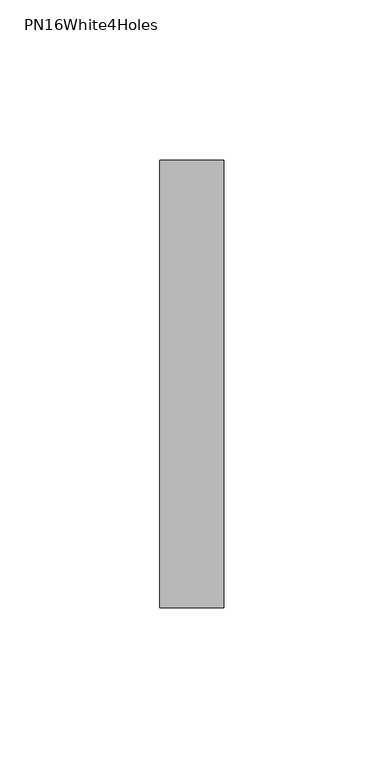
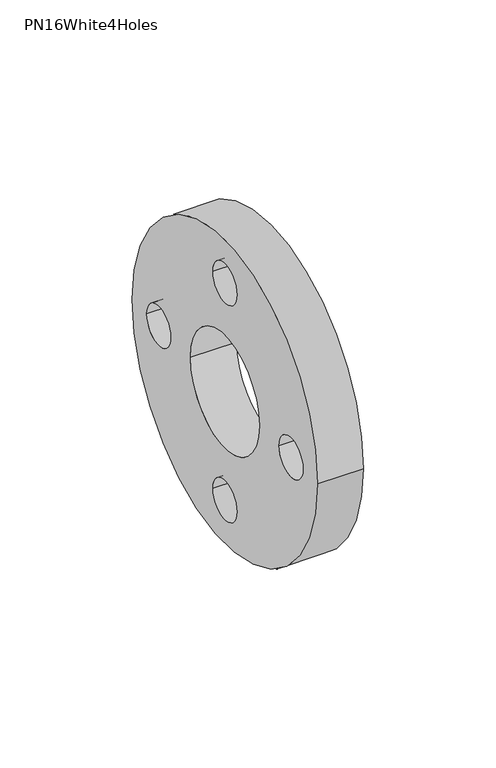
"""IFC4 building model written with IfcOpenShell, lengths in millimetres: pipe fitting geometry, PipeAccessory_GirpiHTA_CPVC_BackingRingsPN16White4HolesFlangeAndGasket : PN16White4Holes."""

from ifc_helpers import new_model, si_unit, point, frame, frame_2d, origin, origin_2d, place, context, project, spatial, circle_curve, trimmed, segment, composite_curve, outline, extrude, source, transform, mapped, element, save


def pn16white4holes_9e65e146(model_context):
    return source(origin(), model_context, "Body", "SweptSolid", [
        extrude(outline(composite_curve([segment(trimmed(circle_curve(origin_2d(), 70.0), [point((-70.0, 0.0))], [point((70.0, 0.0))], False, "CARTESIAN"), True, "CONTINUOUS"), segment(trimmed(circle_curve(origin_2d(), 70.0), [point((70.0, 0.0))], [point((-70.0, 0.0))], False, "CARTESIAN"), True, "CONTINUOUS")], self_intersect=False), holes=[composite_curve([segment(trimmed(circle_curve(origin_2d(), 26.0), [point((-26.0, 0.0))], [point((26.0, 0.0))], True, "CARTESIAN"), True, "CONTINUOUS"), segment(trimmed(circle_curve(origin_2d(), 26.0), [point((26.0, 0.0))], [point((-26.0, 0.0))], True, "CARTESIAN"), True, "CONTINUOUS")], self_intersect=False), composite_curve([segment(trimmed(circle_curve(frame_2d((0.0, 50.0)), 9.0), [point((-9.0, 50.0))], [point((9.0, 50.0))], True, "CARTESIAN"), True, "CONTINUOUS"), segment(trimmed(circle_curve(frame_2d((0.0, 50.0)), 9.0), [point((9.0, 50.0))], [point((-9.0, 50.0))], True, "CARTESIAN"), True, "CONTINUOUS")], self_intersect=False), composite_curve([segment(trimmed(circle_curve(frame_2d((50.0, 0.0)), 9.0), [point((41.0, 0.0))], [point((59.0, 0.0))], True, "CARTESIAN"), True, "CONTINUOUS"), segment(trimmed(circle_curve(frame_2d((50.0, 0.0)), 9.0), [point((59.0, 0.0))], [point((41.0, 0.0))], True, "CARTESIAN"), True, "CONTINUOUS")], self_intersect=False), composite_curve([segment(trimmed(circle_curve(frame_2d((0.0, -50.0)), 9.0), [point((-9.0, -50.0))], [point((9.0, -50.0))], True, "CARTESIAN"), True, "CONTINUOUS"), segment(trimmed(circle_curve(frame_2d((0.0, -50.0)), 9.0), [point((9.0, -50.0))], [point((-9.0, -50.0))], True, "CARTESIAN"), True, "CONTINUOUS")], self_intersect=False), composite_curve([segment(trimmed(circle_curve(frame_2d((-50.0, 0.0)), 9.0), [point((-59.0, 0.0))], [point((-41.0, 0.0))], True, "CARTESIAN"), True, "CONTINUOUS"), segment(trimmed(circle_curve(frame_2d((-50.0, 0.0)), 9.0), [point((-41.0, 0.0))], [point((-59.0, 0.0))], True, "CARTESIAN"), True, "CONTINUOUS")], self_intersect=False)]), frame((-10.0, 0.0, 0.0), z_axis=(1.0, 0.0, 0.0), x_axis=(0.0, 1.0, 0.0)), (0.0, 0.0, 1.0), 20.0),
    ])


if __name__ == "__main__":
    model = new_model("IFC4")
    model_context = context("Model", 3, world=origin())
    ifc_project = project(units=[si_unit("LENGTHUNIT", "METRE", prefix="MILLI")], contexts=[model_context])
    site = spatial("IfcSite", under=ifc_project)
    building = spatial("IfcBuilding", under=site)
    placement = place(None, origin())
    pn16white4holes_shape = pn16white4holes_9e65e146(model_context)
    element("IfcPipeFitting", 1, ObjectType="PipeAccessory_GirpiHTA_CPVC_BackingRingsPN16White4HolesFlangeAndGasket : PN16White4Holes", at=placement, inside=building, context=model_context, shape_type="MappedRepresentation", body=[
        mapped(pn16white4holes_shape, transform((0.0, 0.0, 0.0), x_axis=(1.0, 0.0, 0.0), y_axis=(0.0, 1.0, 0.0), z_axis=(0.0, 0.0, 1.0))),
    ])
    save(model, "model.ifc")
